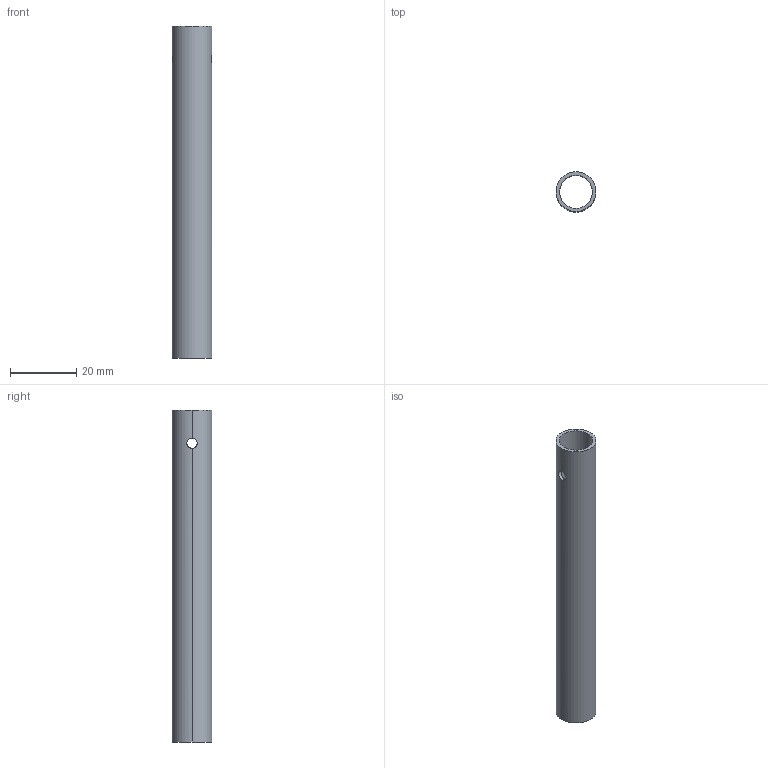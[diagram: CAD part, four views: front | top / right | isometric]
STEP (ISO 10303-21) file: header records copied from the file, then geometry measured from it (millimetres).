
FILE_DESCRIPTION (( 'STEP AP203' ), '1' );
FILE_NAME ('聆彸-蟀諉抯奪.STEP', '2026-07-29T03:59:16', ( '' ), ( '' ), 'SwSTEP 2.0', 'SolidWorks 2025', '' );
FILE_SCHEMA (( 'CONFIG_CONTROL_DESIGN' ));
Length unit declared in the file: millimetre
Products named in the file (1): 测试-连接碳管
Bounding box: 12 x 12 x 100 mm (x, y, z)
Volume: 3440.5 mm3; surface area: 6970 mm2
Topology: 1 solids, 1 shells, 10 faces, 28 edges, 16 vertices
Faces by surface type: cylinder 8, plane 2
Entity records: 601 total; most frequent: CARTESIAN_POINT 267, ORIENTED_EDGE 56, DIRECTION 50, EDGE_CURVE 28, AXIS2_PLACEMENT_3D 19, VERTEX_POINT 16, LINE 12, EDGE_LOOP 12
